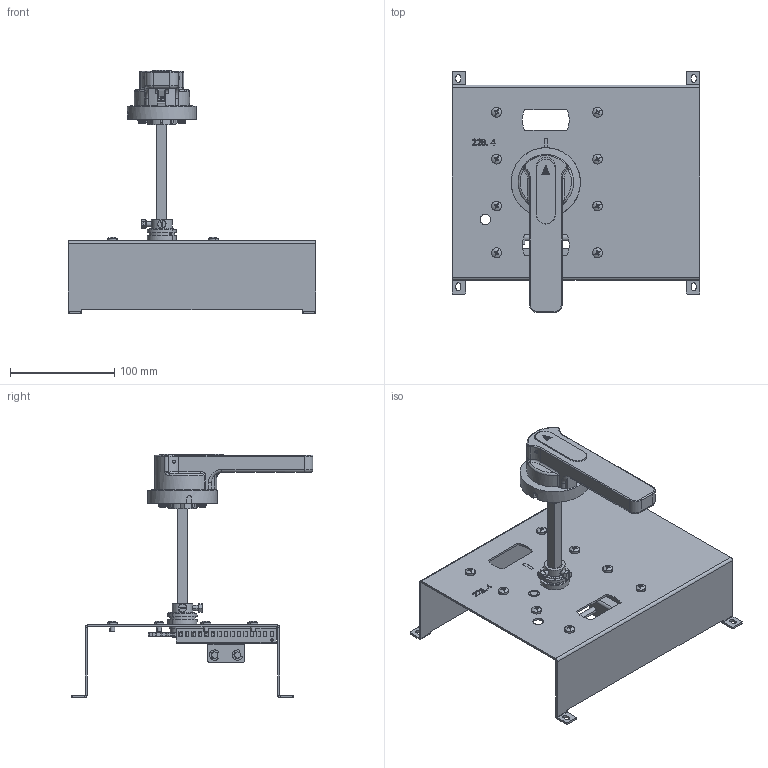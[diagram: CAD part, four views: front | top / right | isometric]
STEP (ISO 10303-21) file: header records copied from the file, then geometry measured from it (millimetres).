
FILE_DESCRIPTION(/* description */ (''),/* implementation_level */ '2;1');
FILE_NAME(/* name */ '_model1.stp',/* time_stamp */ '2025-09-24T10:09:26+08:00',/* author */ (''),/* organization */ (''),/* preprocessor_version */ 'ST-DEVELOPER v16',/* originating_system */ 'SIEMENS PLM Software NX 10.0',/* authorisation */ '');
FILE_SCHEMA (('AUTOMOTIVE_DESIGN { 1 0 10303 214 3 1 1 1 }'));
Products named in the file (1): midi514C04092fsx
Bounding box: 238 x 232.35 x 233.9 mm (x, y, z)
Volume: 198378.3 mm3; surface area: 244031.8 mm2
Topology: 23 solids, 24 shells, 1720 faces, 4559 edges, 2873 vertices
Faces by surface type: plane 886, cylinder 472, bspline 258, cone 63, torus 25, sphere 16
Full cylindrical faces by diameter (mm): 2.7 x2, 3 x3, 3.5 x8, 3.8 x3, 4 x5, 4.18 x2, 4.4 x2, 4.542 x1, 8 x2, 23.5 x1, 66.5 x1
Entity records: 82204 total; most frequent: CARTESIAN_POINT 41301, ORIENTED_EDGE 8774, DIRECTION 7807, EDGE_CURVE 4387, VERTEX_POINT 2837, AXIS2_PLACEMENT_3D 2639, LINE 2529, VECTOR 2529
